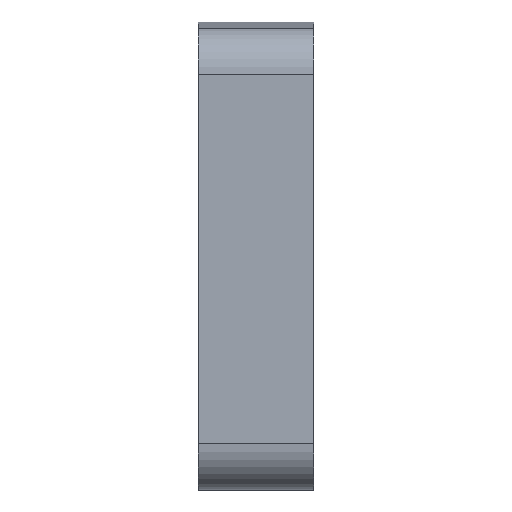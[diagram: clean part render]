
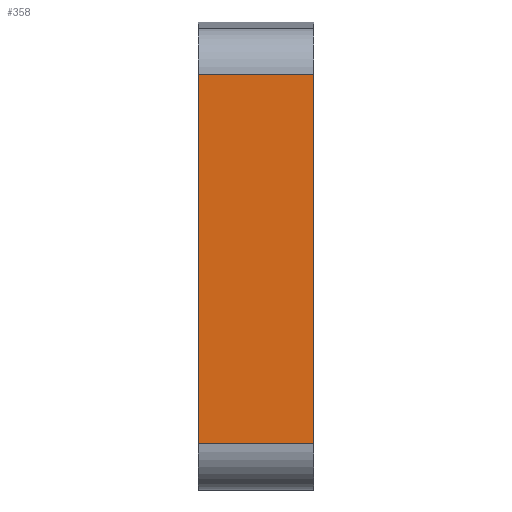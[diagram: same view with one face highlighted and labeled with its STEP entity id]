
A CAD part, front view. The second image highlights one B-rep face of the part: STEP entity #358.
In plain terms, the highlighted planar face has unit normal (0, -1, 0).
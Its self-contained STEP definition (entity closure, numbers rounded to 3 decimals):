
#23=PLANE('',#398);
#32=FACE_OUTER_BOUND('',#50,.T.);
#50=EDGE_LOOP('',(#247,#248,#249,#250));
#76=LINE('',#560,#104);
#77=LINE('',#563,#105);
#78=LINE('',#565,#106);
#79=LINE('',#566,#107);
#104=VECTOR('',#446,10.);
#105=VECTOR('',#449,10.);
#106=VECTOR('',#450,10.);
#107=VECTOR('',#451,10.);
#155=VERTEX_POINT('',#553);
#158=VERTEX_POINT('',#558);
#159=VERTEX_POINT('',#562);
#160=VERTEX_POINT('',#564);
#194=EDGE_CURVE('',#158,#155,#76,.T.);
#195=EDGE_CURVE('',#159,#158,#77,.T.);
#196=EDGE_CURVE('',#160,#159,#78,.T.);
#197=EDGE_CURVE('',#155,#160,#79,.T.);
#247=ORIENTED_EDGE('',*,*,#194,.F.);
#248=ORIENTED_EDGE('',*,*,#195,.F.);
#249=ORIENTED_EDGE('',*,*,#196,.F.);
#250=ORIENTED_EDGE('',*,*,#197,.F.);
#358=ADVANCED_FACE('',(#32),#23,.T.);
#398=AXIS2_PLACEMENT_3D('',#561,#447,#448);
#446=DIRECTION('',(1.,0.,0.));
#447=DIRECTION('center_axis',(0.,-1.,0.));
#448=DIRECTION('ref_axis',(0.,0.,-1.));
#449=DIRECTION('',(0.,0.,1.));
#450=DIRECTION('',(-1.,0.,0.));
#451=DIRECTION('',(0.,0.,-1.));
#553=CARTESIAN_POINT('',(5.,-75.,18.));
#558=CARTESIAN_POINT('',(0.,-75.,18.));
#560=CARTESIAN_POINT('',(0.,-75.,18.));
#561=CARTESIAN_POINT('Origin',(0.,-75.,20.));
#562=CARTESIAN_POINT('',(0.,-75.,2.));
#563=CARTESIAN_POINT('',(0.,-75.,0.));
#564=CARTESIAN_POINT('',(5.,-75.,2.));
#565=CARTESIAN_POINT('',(0.,-75.,2.));
#566=CARTESIAN_POINT('',(5.,-75.,0.));
